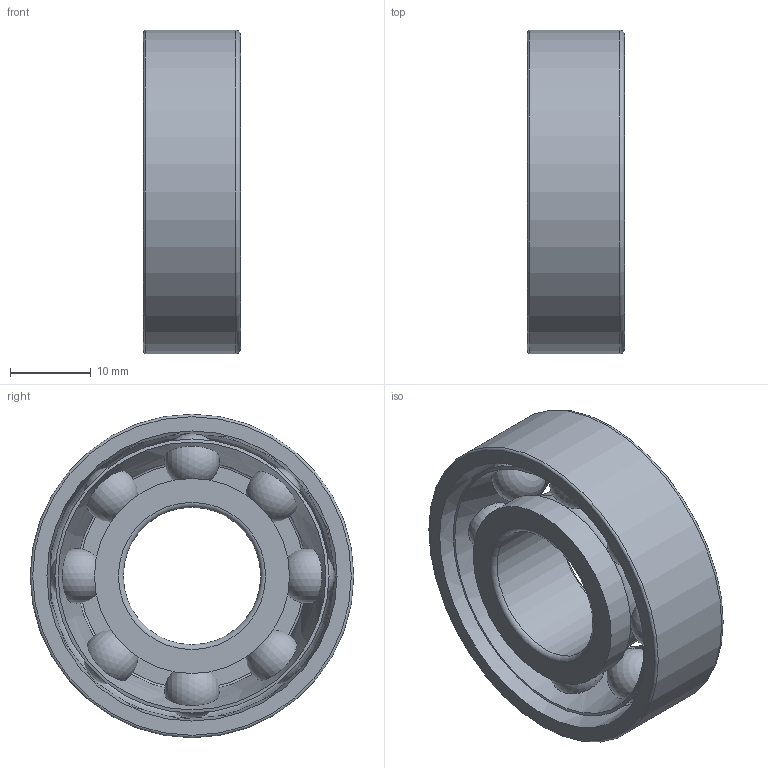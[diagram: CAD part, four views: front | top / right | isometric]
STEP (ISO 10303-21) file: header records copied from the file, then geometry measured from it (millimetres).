
FILE_DESCRIPTION(/* description */ (''),/* implementation_level */ '2;1');
FILE_NAME(/* name */ 'D:\moje\parametrické\rada72--\72---B\72--B\7203B.stp',/* time_stamp */ '2016-02-10T09:26:59+01:00',/* author */ ('OUBALASKO'),/* organization */ (''),/* preprocessor_version */ 'ST-DEVELOPER v15.2',/* originating_system */ 'Autodesk Inventor 2014',/* authorisation */ '');
FILE_SCHEMA (('AUTOMOTIVE_DESIGN { 1 0 10303 214 3 1 1 }'));
Length unit declared in the file: millimetre
Products named in the file (5): 7203B-02; 7203B-ball; 7203B-01; 7203B-cage; 7203B
Bounding box: 12 x 40 x 40 mm (x, y, z)
Volume: 7524 mm3; surface area: 8339.7 mm2
Topology: 11 solids, 11 shells, 40 faces, 88 edges, 60 vertices
Faces by surface type: sphere 16, torus 8, plane 6, cylinder 5, cone 5
Full cylindrical faces by diameter (mm): 17 x1, 23.343 x1, 24.114 x1, 32.211 x1, 40 x1
Entity records: 1556 total; most frequent: CARTESIAN_POINT 788, DIRECTION 148, ORIENTED_EDGE 82, EDGE_LOOP 81, AXIS2_PLACEMENT_3D 74, FACE_BOUND 61, VERTEX_POINT 42, EDGE_CURVE 41
